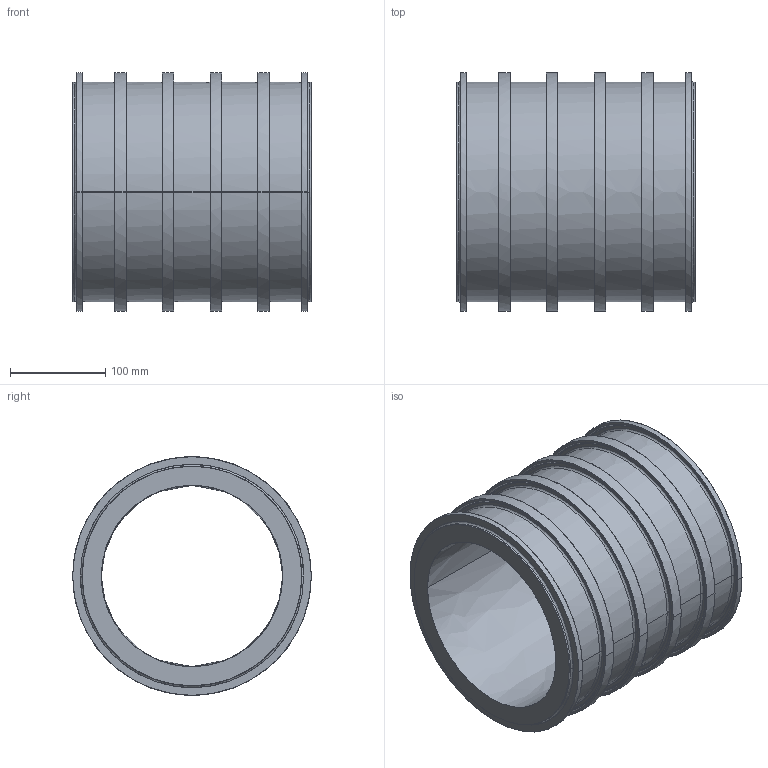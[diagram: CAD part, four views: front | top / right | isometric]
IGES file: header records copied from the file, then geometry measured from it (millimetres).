
Start section:  PTC IGES file: asfl_d160.igs
Global section: file name: asfl_d160.igs; native system: Pro/ENGINEER by Parametric Technology Corporation; preprocessor: 2011490; author: mtunjic; organization: Unknown; date: 20130730.084109; units: millimetre
Bounding box: 250 x 250 x 250 mm (x, y, z)
Surface area: 476382.1 mm2 (no closed solid volume)
Topology: 0 solids, 0 shells, 138 faces, 552 edges, 552 vertices
Faces by surface type: bspline 138
